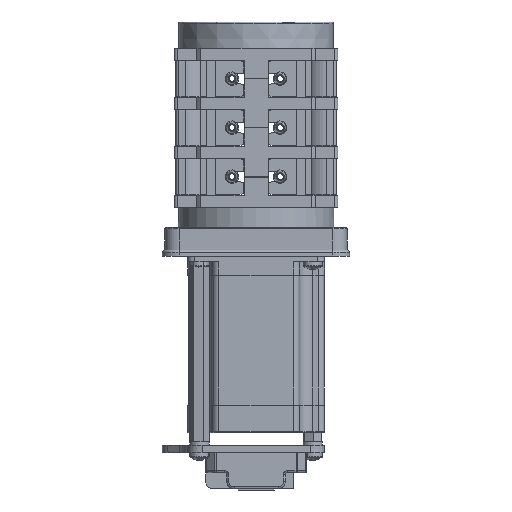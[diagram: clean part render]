
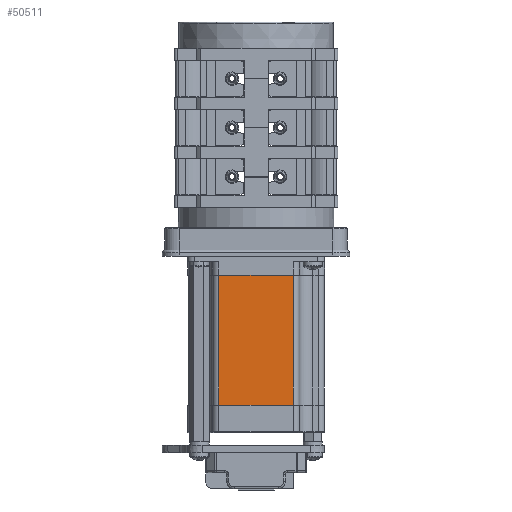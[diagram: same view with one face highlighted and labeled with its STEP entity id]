
A CAD part, front view. The second image highlights one B-rep face of the part: STEP entity #50511.
In plain terms, the highlighted planar face has unit normal (0, -1, 0).
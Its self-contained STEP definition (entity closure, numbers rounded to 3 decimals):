
#1639 = EDGE_CURVE ( 'NONE', #54316, #37833, #20529, .T. ) ;
#6530 = DIRECTION ( 'NONE',  ( -1., 0., 0. ) ) ;
#6994 = AXIS2_PLACEMENT_3D ( 'NONE', #12168, #20698, #49929 ) ;
#9257 = VECTOR ( 'NONE', #22951, 1000. ) ;
#10220 = CARTESIAN_POINT ( 'NONE',  ( 15.57, -28.3, -95.1 ) ) ;
#10740 = CARTESIAN_POINT ( 'NONE',  ( 15.57, -28.3, -41.1 ) ) ;
#11056 = LINE ( 'NONE', #53862, #43237 ) ;
#11647 = CARTESIAN_POINT ( 'NONE',  ( 15.57, -28.3, -41.1 ) ) ;
#12168 = CARTESIAN_POINT ( 'NONE',  ( 15.57, -28.3, 50.01 ) ) ;
#20198 = CARTESIAN_POINT ( 'NONE',  ( 15.57, -28.3, -95.1 ) ) ;
#20529 = LINE ( 'NONE', #10220, #9257 ) ;
#20698 = DIRECTION ( 'NONE',  ( 0., -1., 0. ) ) ;
#21576 = VECTOR ( 'NONE', #6530, 1000. ) ;
#21949 = ORIENTED_EDGE ( 'NONE', *, *, #34945, .F. ) ;
#22951 = DIRECTION ( 'NONE',  ( -1., 0., 0. ) ) ;
#23222 = VECTOR ( 'NONE', #24572, 1000. ) ;
#23324 = VERTEX_POINT ( 'NONE', #11647 ) ;
#24423 = EDGE_CURVE ( 'NONE', #33237, #37833, #11056, .T. ) ;
#24572 = DIRECTION ( 'NONE',  ( 0., 0., -1. ) ) ;
#26346 = ORIENTED_EDGE ( 'NONE', *, *, #46193, .T. ) ;
#29107 = EDGE_LOOP ( 'NONE', ( #26346, #39824, #37741, #21949 ) ) ;
#32973 = CARTESIAN_POINT ( 'NONE',  ( 15.57, -28.3, 50.01 ) ) ;
#33237 = VERTEX_POINT ( 'NONE', #44674 ) ;
#34945 = EDGE_CURVE ( 'NONE', #23324, #54316, #45460, .T. ) ;
#37741 = ORIENTED_EDGE ( 'NONE', *, *, #1639, .F. ) ;
#37833 = VERTEX_POINT ( 'NONE', #48952 ) ;
#39824 = ORIENTED_EDGE ( 'NONE', *, *, #24423, .T. ) ;
#43237 = VECTOR ( 'NONE', #45451, 1000. ) ;
#43810 = LINE ( 'NONE', #10740, #21576 ) ;
#44674 = CARTESIAN_POINT ( 'NONE',  ( -15.57, -28.3, -41.1 ) ) ;
#45451 = DIRECTION ( 'NONE',  ( 0., 0., -1. ) ) ;
#45460 = LINE ( 'NONE', #32973, #23222 ) ;
#45737 = PLANE ( 'NONE',  #6994 ) ;
#46193 = EDGE_CURVE ( 'NONE', #23324, #33237, #43810, .T. ) ;
#48420 = FACE_OUTER_BOUND ( 'NONE', #29107, .T. ) ;
#48952 = CARTESIAN_POINT ( 'NONE',  ( -15.57, -28.3, -95.1 ) ) ;
#49929 = DIRECTION ( 'NONE',  ( 1., 0., 0. ) ) ;
#50511 = ADVANCED_FACE ( 'NONE', ( #48420 ), #45737, .T. ) ;
#53862 = CARTESIAN_POINT ( 'NONE',  ( -15.57, -28.3, 50.01 ) ) ;
#54316 = VERTEX_POINT ( 'NONE', #20198 ) ;
